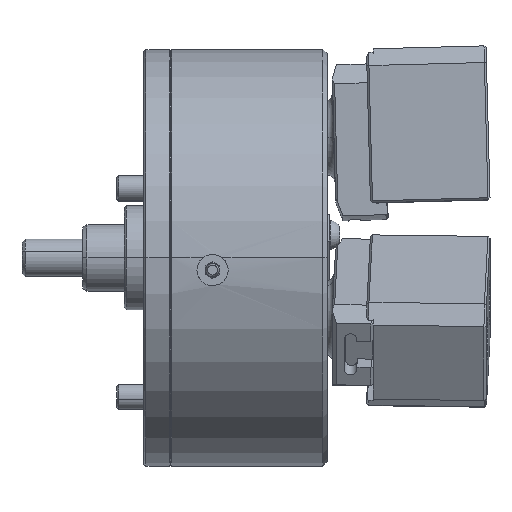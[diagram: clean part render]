
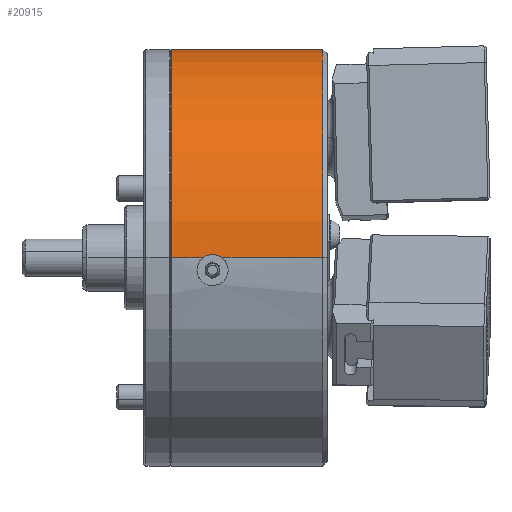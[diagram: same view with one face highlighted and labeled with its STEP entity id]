
A CAD part, top view. The second image highlights one B-rep face of the part: STEP entity #20915.
In plain terms, the highlighted cylindrical face has radius 100 mm (diameter 200 mm), a partial arc.
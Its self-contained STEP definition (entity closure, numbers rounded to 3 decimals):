
#284 = AXIS2_PLACEMENT_3D ( 'NONE', #16041, #45306, #41136 ) ;
#1047 = VERTEX_POINT ( 'NONE', #12947 ) ;
#1450 = DIRECTION ( 'NONE',  ( 1., 0., 0. ) ) ;
#2581 = CYLINDRICAL_SURFACE ( 'NONE', #284, 100. ) ;
#4520 = CARTESIAN_POINT ( 'NONE',  ( -2., 0., 0. ) ) ;
#4718 = VERTEX_POINT ( 'NONE', #45308 ) ;
#5586 = CARTESIAN_POINT ( 'NONE',  ( -74.6, 0., 100. ) ) ;
#8653 = AXIS2_PLACEMENT_3D ( 'NONE', #26682, #1450, #30929 ) ;
#8779 = CARTESIAN_POINT ( 'NONE',  ( -59.5, 0., 100. ) ) ;
#8849 = DIRECTION ( 'NONE',  ( 0., 0., -1. ) ) ;
#10207 = EDGE_CURVE ( 'NONE', #4718, #53426, #49237, .T. ) ;
#11935 = AXIS2_PLACEMENT_3D ( 'NONE', #4520, #33930, #8849 ) ;
#12442 = CIRCLE ( 'NONE', #8653, 100. ) ;
#12452 = DIRECTION ( 'NONE',  ( 1., 0., 0. ) ) ;
#12947 = CARTESIAN_POINT ( 'NONE',  ( -74.6, 0., -100. ) ) ;
#16041 = CARTESIAN_POINT ( 'NONE',  ( 63.843, 0., 0. ) ) ;
#19188 = DIRECTION ( 'NONE',  ( 1., 0., 0. ) ) ;
#20025 = CARTESIAN_POINT ( 'NONE',  ( -59.5, 0., 100. ) ) ;
#20042 = CARTESIAN_POINT ( 'NONE',  ( -2., 0., 100. ) ) ;
#20084 = CARTESIAN_POINT ( 'NONE',  ( -59.18, 0.24, 100. ) ) ;
#20093 = CARTESIAN_POINT ( 'NONE',  ( -58.841, 0.454, 99.999 ) ) ;
#20163 = CARTESIAN_POINT ( 'NONE',  ( -58.125, 0.83, 99.997 ) ) ;
#20201 = CARTESIAN_POINT ( 'NONE',  ( -57.752, 0.989, 99.995 ) ) ;
#20279 = CARTESIAN_POINT ( 'NONE',  ( -56.992, 1.242, 99.992 ) ) ;
#20289 = CARTESIAN_POINT ( 'NONE',  ( -56.603, 1.338, 99.991 ) ) ;
#20353 = CARTESIAN_POINT ( 'NONE',  ( -56.006, 1.435, 99.99 ) ) ;
#20364 = CARTESIAN_POINT ( 'NONE',  ( -55.804, 1.46, 99.989 ) ) ;
#20406 = CARTESIAN_POINT ( 'NONE',  ( -55.401, 1.492, 99.989 ) ) ;
#20475 = CARTESIAN_POINT ( 'NONE',  ( -55.2, 1.5, 99.989 ) ) ;
#20482 = CARTESIAN_POINT ( 'NONE',  ( -54.599, 1.5, 99.989 ) ) ;
#20544 = CARTESIAN_POINT ( 'NONE',  ( -54.2, 1.468, 99.989 ) ) ;
#20638 = CARTESIAN_POINT ( 'NONE',  ( -53.405, 1.34, 99.991 ) ) ;
#20647 = CARTESIAN_POINT ( 'NONE',  ( -53.009, 1.242, 99.992 ) ) ;
#20710 = CARTESIAN_POINT ( 'NONE',  ( -52.248, 0.988, 99.995 ) ) ;
#20814 = CARTESIAN_POINT ( 'NONE',  ( -51.879, 0.832, 99.997 ) ) ;
#20823 = CARTESIAN_POINT ( 'NONE',  ( -51.167, 0.459, 99.999 ) ) ;
#20882 = CARTESIAN_POINT ( 'NONE',  ( -50.821, 0.241, 100. ) ) ;
#20915 = ADVANCED_FACE ( 'NONE', ( #37694 ), #2581, .T. ) ;
#20937 = CARTESIAN_POINT ( 'NONE',  ( -50.5, 0., 100. ) ) ;
#21606 = ORIENTED_EDGE ( 'NONE', *, *, #42765, .F. ) ;
#21698 = ORIENTED_EDGE ( 'NONE', *, *, #52631, .T. ) ;
#22273 = VECTOR ( 'NONE', #19188, 1000. ) ;
#22795 = VERTEX_POINT ( 'NONE', #5586 ) ;
#22956 = ORIENTED_EDGE ( 'NONE', *, *, #53584, .T. ) ;
#24176 = ORIENTED_EDGE ( 'NONE', *, *, #44525, .T. ) ;
#24891 = VECTOR ( 'NONE', #43785, 1000. ) ;
#26682 = CARTESIAN_POINT ( 'NONE',  ( -74.6, 0., 0. ) ) ;
#26835 = CARTESIAN_POINT ( 'NONE',  ( 63.843, 0., 100. ) ) ;
#28167 = ORIENTED_EDGE ( 'NONE', *, *, #45498, .F. ) ;
#29491 = ORIENTED_EDGE ( 'NONE', *, *, #10207, .F. ) ;
#30870 = CIRCLE ( 'NONE', #11935, 100. ) ;
#30929 = DIRECTION ( 'NONE',  ( 0., 0., -1. ) ) ;
#33930 = DIRECTION ( 'NONE',  ( 1., 0., 0. ) ) ;
#36585 = VERTEX_POINT ( 'NONE', #44470 ) ;
#37694 = FACE_OUTER_BOUND ( 'NONE', #38238, .T. ) ;
#37709 = CARTESIAN_POINT ( 'NONE',  ( 63.843, 0., -100. ) ) ;
#38238 = EDGE_LOOP ( 'NONE', ( #24176, #22956, #29491, #21698, #21606, #28167 ) ) ;
#41136 = DIRECTION ( 'NONE',  ( 0., 0., -1. ) ) ;
#41226 = LINE ( 'NONE', #37709, #53655 ) ;
#42765 = EDGE_CURVE ( 'NONE', #36585, #44149, #30870, .T. ) ;
#43785 = DIRECTION ( 'NONE',  ( 1., 0., 0. ) ) ;
#44149 = VERTEX_POINT ( 'NONE', #20042 ) ;
#44470 = CARTESIAN_POINT ( 'NONE',  ( -2., 0., -100. ) ) ;
#44525 = EDGE_CURVE ( 'NONE', #1047, #22795, #12442, .T. ) ;
#44538 = LINE ( 'NONE', #48479, #22273 ) ;
#45306 = DIRECTION ( 'NONE',  ( 1., 0., 0. ) ) ;
#45308 = CARTESIAN_POINT ( 'NONE',  ( -50.5, 0., 100. ) ) ;
#45498 = EDGE_CURVE ( 'NONE', #1047, #36585, #41226, .T. ) ;
#48479 = CARTESIAN_POINT ( 'NONE',  ( 63.843, 0., 100. ) ) ;
#48598 = LINE ( 'NONE', #26835, #24891 ) ;
#49237 = B_SPLINE_CURVE_WITH_KNOTS ( 'NONE', 3,
 ( #20937, #20882, #20823, #20814, #20710, #20647, #20638, #20544, #20482, #20475, #20406, #20364, #20353, #20289, #20279, #20201, #20163, #20093, #20084, #20025 ),
 .UNSPECIFIED., .F., .F.,
 ( 4, 2, 2, 2, 2, 2, 2, 2, 2, 4 ),
 ( 0.007, 0.008, 0.009, 0.011, 0.012, 0.012, 0.013, 0.014, 0.015, 0.017 ),
 .UNSPECIFIED. ) ;
#52631 = EDGE_CURVE ( 'NONE', #4718, #44149, #48598, .T. ) ;
#53426 = VERTEX_POINT ( 'NONE', #8779 ) ;
#53584 = EDGE_CURVE ( 'NONE', #22795, #53426, #44538, .T. ) ;
#53655 = VECTOR ( 'NONE', #12452, 1000. ) ;
